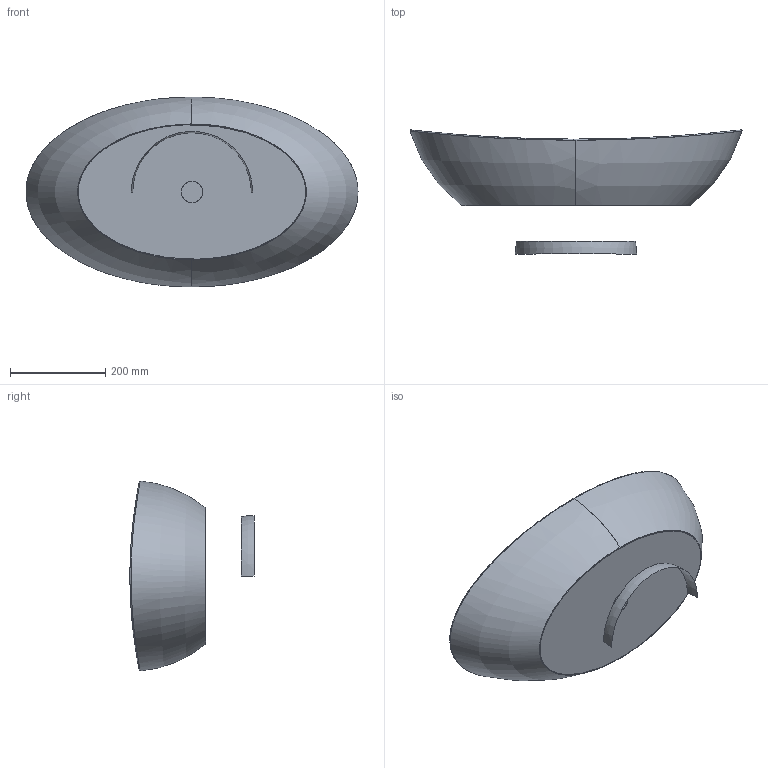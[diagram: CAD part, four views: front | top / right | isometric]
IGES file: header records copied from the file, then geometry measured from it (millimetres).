
Start section: SolidWorks IGES file using analytic representation for surfaces
Global section: file name: D:\Users\M.Szymanski\Desktop\Umywalki\seria Namur\03. do przegrania\Unb_NAMUR_70x40.IGS; native system: SolidWorks 2011; preprocessor: SolidWorks 2011; author: M.Szymanski; date: 180416.110422; units: millimetre
Bounding box: 698.45 x 261.2 x 399.62 mm (x, y, z)
Surface area: 719342.2 mm2 (no closed solid volume)
Topology: 0 solids, 0 shells, 30 faces, 770 edges, 769 vertices
Faces by surface type: bspline 21, revolution 9
